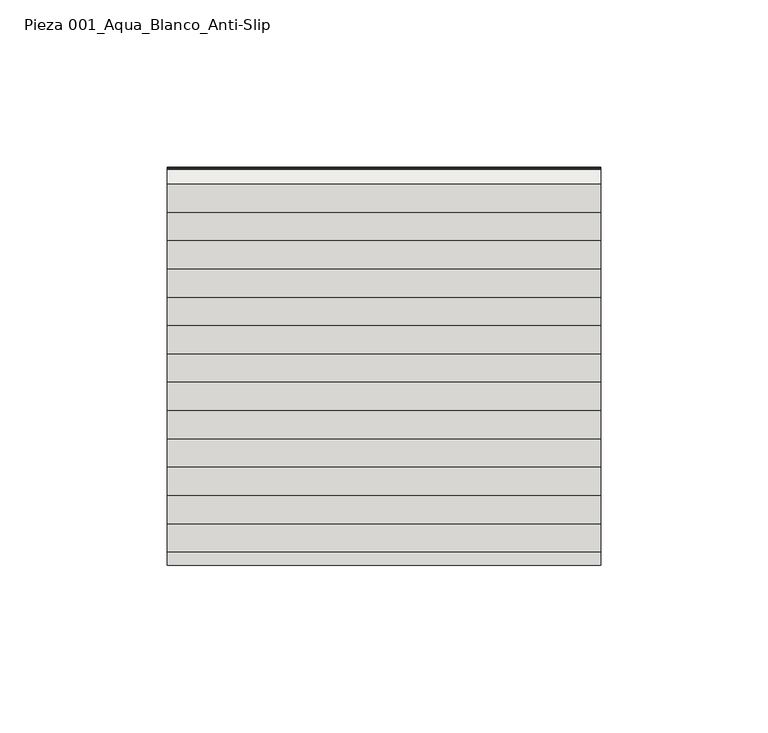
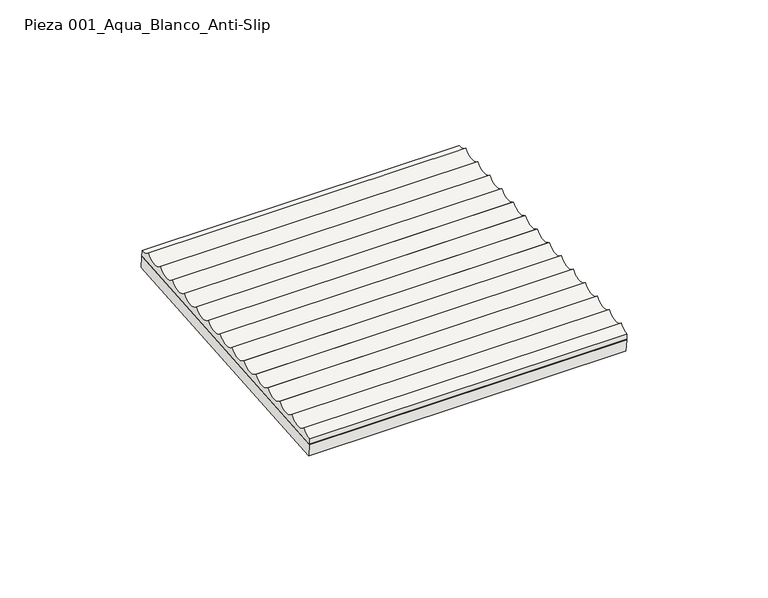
"""IFC4 building model written with IfcOpenShell, lengths in millimetres: slab geometry, ROSA GRES_001 (1 fila) : Pieza 001_Aqua_Blanco_Anti-Slip."""

from ifc_helpers import new_model, si_unit, point, frame, frame_2d, origin, place, context, project, spatial, polyline, circle_curve, trimmed, segment, composite_curve, outline, extrude, source, transform, mapped, element, save


def pieza_001_aqua_blanco_anti_slip_6b46d468(model_context):
    return source(origin(), model_context, "Body", "SweptSolid", [
        extrude(outline(polyline([(59.4997999, 0.0), (-59.4998, 0.0), (-59.4998, 129.8358479), (59.4997999, 129.8358479), (59.4997999, 0.0)])), frame((129.8358479, 179.3036749, 204.5238637), z_axis=(0.0, -0.0811270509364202, 0.9967037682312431), x_axis=(0.0, 0.9967037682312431, 0.0811270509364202)), (0.0, 0.0, 1.0), 5.0),
        extrude(outline(composite_curve([segment(polyline([(238.2017145, 214.3344258), (119.5943647, 204.6803392), (119.3811655, 207.2996439)]), True, "CONTINUOUS"), segment(trimmed(circle_curve(frame_2d((118.9275622, 212.8724843)), 5.5912705), [point((119.3811655, 207.2996439))], [point((123.4582874, 209.5960785))], True, "CARTESIAN"), True, "CONTINUOUS"), segment(trimmed(circle_curve(frame_2d((127.3995158, 213.5620619)), 5.5912705), [point((123.4582874, 209.5960785))], [point((131.930241, 210.2856561))], True, "CARTESIAN"), True, "CONTINUOUS"), segment(trimmed(circle_curve(frame_2d((135.8714693, 214.2516395)), 5.5912705), [point((131.930241, 210.2856561))], [point((140.4021945, 210.9752337))], True, "CARTESIAN"), True, "CONTINUOUS"), segment(trimmed(circle_curve(frame_2d((144.3434229, 214.9412171)), 5.5912705), [point((140.4021945, 210.9752337))], [point((148.8741481, 211.6648113))], True, "CARTESIAN"), True, "CONTINUOUS"), segment(trimmed(circle_curve(frame_2d((152.8153765, 215.6307947)), 5.5912705), [point((148.8741481, 211.6648113))], [point((157.3461016, 212.3543889))], True, "CARTESIAN"), True, "CONTINUOUS"), segment(trimmed(circle_curve(frame_2d((161.28733, 216.3203723)), 5.5912705), [point((157.3461016, 212.3543889))], [point((165.8180552, 213.0439666))], True, "CARTESIAN"), True, "CONTINUOUS"), segment(trimmed(circle_curve(frame_2d((169.7592836, 217.00995)), 5.5912705), [point((165.8180552, 213.0439666))], [point((174.2900087, 213.7335442))], True, "CARTESIAN"), True, "CONTINUOUS"), segment(trimmed(circle_curve(frame_2d((178.2312371, 217.6995276)), 5.5912705), [point((174.2900087, 213.7335442))], [point((182.7619623, 214.4231218))], True, "CARTESIAN"), True, "CONTINUOUS"), segment(trimmed(circle_curve(frame_2d((186.7031907, 218.3891052)), 5.5912705), [point((182.7619623, 214.4231218))], [point((191.2339158, 215.1126994))], True, "CARTESIAN"), True, "CONTINUOUS"), segment(trimmed(circle_curve(frame_2d((195.1751442, 219.0786828)), 5.5912705), [point((191.2339158, 215.1126994))], [point((199.7058694, 215.802277))], True, "CARTESIAN"), True, "CONTINUOUS"), segment(trimmed(circle_curve(frame_2d((203.6470978, 219.7682604)), 5.5912705), [point((199.7058694, 215.802277))], [point((208.1778229, 216.4918546))], True, "CARTESIAN"), True, "CONTINUOUS"), segment(trimmed(circle_curve(frame_2d((212.1190513, 220.457838)), 5.5912705), [point((208.1778229, 216.4918546))], [point((216.6497765, 217.1814322))], True, "CARTESIAN"), True, "CONTINUOUS"), segment(trimmed(circle_curve(frame_2d((220.5910049, 221.1474157)), 5.5912705), [point((216.6497765, 217.1814322))], [point((225.12173, 217.8710099))], True, "CARTESIAN"), True, "CONTINUOUS"), segment(trimmed(circle_curve(frame_2d((229.0629584, 221.8369933)), 5.5912705), [point((225.12173, 217.8710099))], [point((233.5936836, 218.5605875))], True, "CARTESIAN"), True, "CONTINUOUS"), segment(trimmed(circle_curve(frame_2d((237.534912, 222.5265709)), 5.5912705), [point((233.5936836, 218.5605875))], [point((237.9885153, 216.9537305))], True, "CARTESIAN"), True, "CONTINUOUS"), segment(polyline([(237.9885153, 216.9537305), (238.2017145, 214.3344258)]), True, "CONTINUOUS")], self_intersect=False)), frame((0.0, 0.0, 0.0), z_axis=(1.0, 0.0, 0.0), x_axis=(0.0, 1.0, 0.0)), (0.0, 0.0, 1.0), 129.8358479),
    ])


if __name__ == "__main__":
    model = new_model("IFC4")
    model_context = context("Model", 3, world=origin())
    ifc_project = project(units=[si_unit("LENGTHUNIT", "METRE", prefix="MILLI")], contexts=[model_context])
    site = spatial("IfcSite", under=ifc_project)
    building = spatial("IfcBuilding", under=site)
    placement = place(None, origin())
    pieza_001_aqua_blanco_anti_slip_shape = pieza_001_aqua_blanco_anti_slip_6b46d468(model_context)
    element("IfcSlab", 1, ObjectType="ROSA GRES_001 (1 fila) : Pieza 001_Aqua_Blanco_Anti-Slip", at=placement, inside=building, context=model_context, shape_type="MappedRepresentation", body=[
        mapped(pieza_001_aqua_blanco_anti_slip_shape, transform((0.0, 0.0, 0.0), x_axis=(1.0, 0.0, 0.0), y_axis=(0.0, 1.0, 0.0), z_axis=(0.0, 0.0, 1.0))),
    ])
    save(model, "model.ifc")
